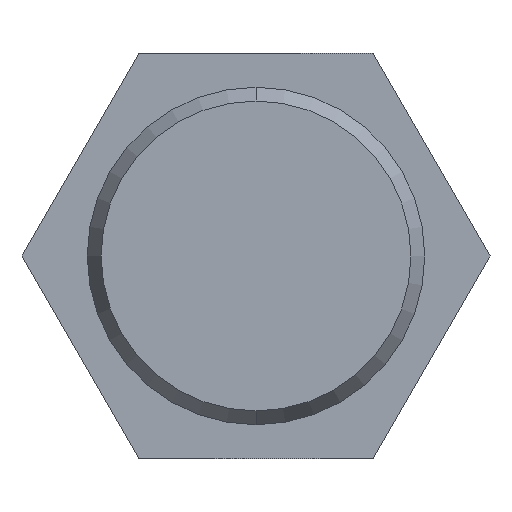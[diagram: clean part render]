
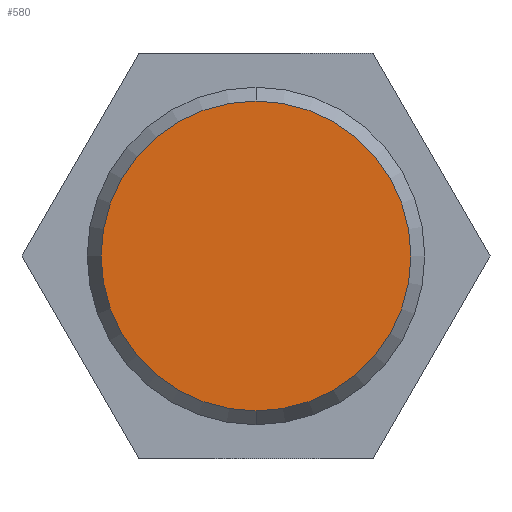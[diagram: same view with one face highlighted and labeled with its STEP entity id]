
A CAD part, left-side view. The second image highlights one B-rep face of the part: STEP entity #580.
In plain terms, the highlighted planar face has unit normal (-1, 0, 0).
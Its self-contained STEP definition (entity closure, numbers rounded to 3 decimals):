
#1 = DIRECTION ( 'NONE',  ( 1., 0., 0. ) ) ;
#53 = DIRECTION ( 'NONE',  ( 0., 0., -1. ) ) ;
#57 = DIRECTION ( 'NONE',  ( 1., 0., 0. ) ) ;
#59 = CARTESIAN_POINT ( 'NONE',  ( 0., 0., 0. ) ) ;
#61 = CARTESIAN_POINT ( 'NONE',  ( 0., 0., -6.5 ) ) ;
#119 = CARTESIAN_POINT ( 'NONE',  ( 0., 0., 0. ) ) ;
#152 = DIRECTION ( 'NONE',  ( 0., 0., 1. ) ) ;
#196 = CARTESIAN_POINT ( 'NONE',  ( 0., 0., 6.5 ) ) ;
#225 = AXIS2_PLACEMENT_3D ( 'NONE', #59, #57, #53 ) ;
#264 = CIRCLE ( 'NONE', #225, 6.5 ) ;
#267 = AXIS2_PLACEMENT_3D ( 'NONE', #119, #1, #285 ) ;
#268 = EDGE_CURVE ( 'NONE', #304, #312, #264, .T. ) ;
#285 = DIRECTION ( 'NONE',  ( 0., 0., -1. ) ) ;
#300 = CARTESIAN_POINT ( 'NONE',  ( 0., 0., 0. ) ) ;
#304 = VERTEX_POINT ( 'NONE', #61 ) ;
#312 = VERTEX_POINT ( 'NONE', #196 ) ;
#316 = ORIENTED_EDGE ( 'NONE', *, *, #268, .F. ) ;
#318 = EDGE_CURVE ( 'NONE', #312, #304, #623, .T. ) ;
#320 = EDGE_LOOP ( 'NONE', ( #316, #322 ) ) ;
#322 = ORIENTED_EDGE ( 'NONE', *, *, #318, .F. ) ;
#395 = PLANE ( 'NONE',  #465 ) ;
#444 = DIRECTION ( 'NONE',  ( -1., 0., 0. ) ) ;
#446 = FACE_OUTER_BOUND ( 'NONE', #320, .T. ) ;
#465 = AXIS2_PLACEMENT_3D ( 'NONE', #300, #444, #152 ) ;
#580 = ADVANCED_FACE ( 'NONE', ( #446 ), #395, .T. ) ;
#623 = CIRCLE ( 'NONE', #267, 6.5 ) ;
